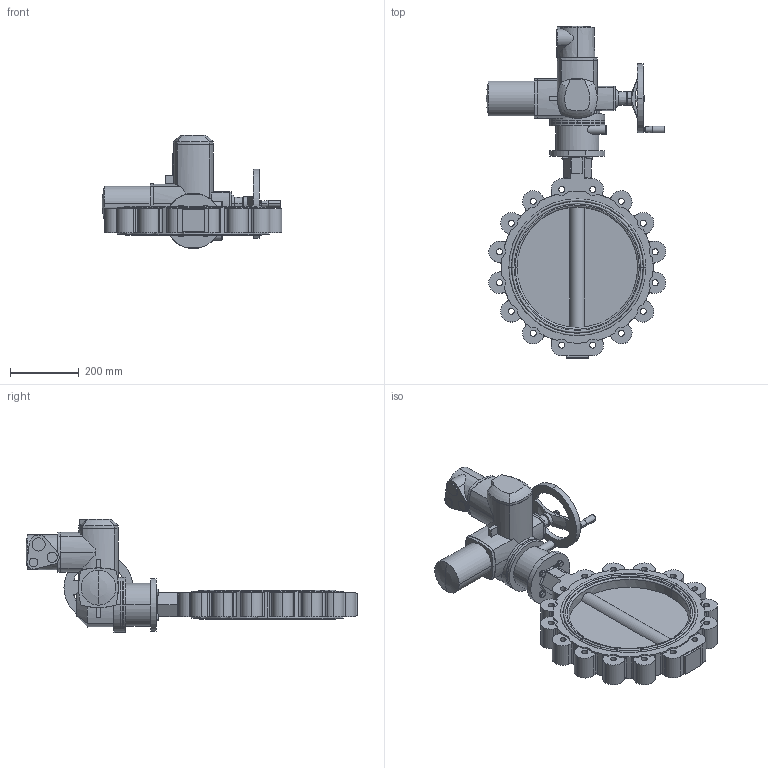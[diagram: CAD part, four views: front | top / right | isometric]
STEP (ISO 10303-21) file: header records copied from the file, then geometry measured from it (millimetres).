
FILE_DESCRIPTION (( 'STEP AP214' ), '1' );
FILE_NAME ('67556.step', '2020-10-23T13:47:02', ( '' ), ( '' ), 'SwSTEP 2.0', 'SolidWorks 2019', '' );
FILE_SCHEMA (( 'AUTOMOTIVE_DESIGN' ));
Length unit declared in the file: millimetre
Products named in the file (7): 6kt-Schr DIN 933_M10x35; TL20-0350_M01; 67556; Gewindestift mit Kegelkuppe und In-6kt DIN 913 A4_Gewindestift mit In-6kt M6x12; 54377_SQ10.2 F10-VK22; U-Scheibe DIN 125 A_M10; SQ(R) 10.2_SQ10.2 Drehstrommotor
Assembly tree (12 placements, depth 2):
  67556
    TL20-0350_M01
    U-Scheibe DIN 125 A_M10  x4
    6kt-Schr DIN 933_M10x35  x4
    SQ(R) 10.2_SQ10.2 Drehstrommotor
    54377_SQ10.2 F10-VK22
    Gewindestift mit Kegelkuppe und In-6kt DIN 913 A4_Gewindestift mit In-6kt M6x12
Bounding box: 520.57 x 962.5 x 327.8 mm (x, y, z)
Volume: 18135962.4 mm3; surface area: 1204350.2 mm2
Topology: 12 solids, 12 shells, 870 faces, 2256 edges, 1447 vertices
Faces by surface type: plane 398, cylinder 350, cone 91, bspline 15, torus 12, sphere 4
Entity records: 31429 total; most frequent: CARTESIAN_POINT 7481, DIRECTION 4279, ORIENTED_EDGE 4092, EDGE_CURVE 2046, AXIS2_PLACEMENT_3D 1625, VERTEX_POINT 1325, LINE 1029, VECTOR 1029
